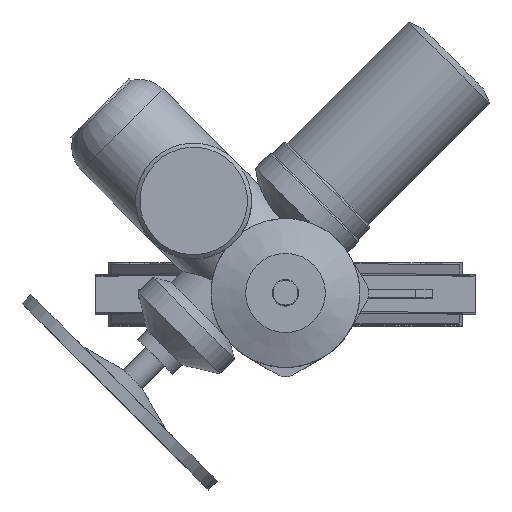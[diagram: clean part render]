
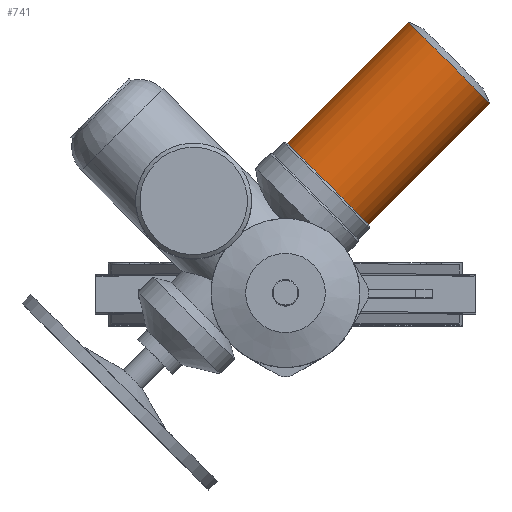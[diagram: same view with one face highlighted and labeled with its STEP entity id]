
A CAD part, top view. The second image highlights one B-rep face of the part: STEP entity #741.
In plain terms, the highlighted cylindrical face has radius 70 mm (diameter 140 mm), a full revolution.
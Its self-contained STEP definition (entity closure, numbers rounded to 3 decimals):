
#741=ADVANCED_FACE('',(#3903,#3905),#3907,.T.);
#3903=FACE_OUTER_BOUND('',#3904,.T.);
#3904=EDGE_LOOP('',(#6377));
#3905=FACE_OUTER_BOUND('',#3906,.T.);
#3906=EDGE_LOOP('',(#6378));
#3907=CYLINDRICAL_SURFACE('',#3908,70.);
#3908=AXIS2_PLACEMENT_3D('',#3909,#3910,#3911);
#3909=CARTESIAN_POINT('',(197.792,278.403,965.));
#3910=DIRECTION('',(-0.707,-0.707,0.));
#3911=DIRECTION('',(0.,0.,1.));
#6377=ORIENTED_EDGE('',*,*,#8046,.T.);
#6378=ORIENTED_EDGE('',*,*,#8007,.F.);
#8007=EDGE_CURVE('',#9036,#9036,#9037,.T.);
#8046=EDGE_CURVE('',#9106,#9106,#9107,.T.);
#9036=VERTEX_POINT('',#11862);
#9037=CIRCLE('',#11863,70.);
#9106=VERTEX_POINT('',#12017);
#9107=CIRCLE('',#12018,70.);
#11862=CARTESIAN_POINT('',(51.482,132.093,1035.));
#11863=AXIS2_PLACEMENT_3D('',#11864,#11865,#11866);
#11864=CARTESIAN_POINT('',(51.482,132.093,965.));
#11865=DIRECTION('',(-0.707,-0.707,0.));
#11866=DIRECTION('',(0.,0.,1.));
#12017=CARTESIAN_POINT('',(197.792,278.403,1035.));
#12018=AXIS2_PLACEMENT_3D('',#12019,#12020,#12021);
#12019=CARTESIAN_POINT('',(197.792,278.403,965.));
#12020=DIRECTION('',(-0.707,-0.707,0.));
#12021=DIRECTION('',(0.,0.,1.));
